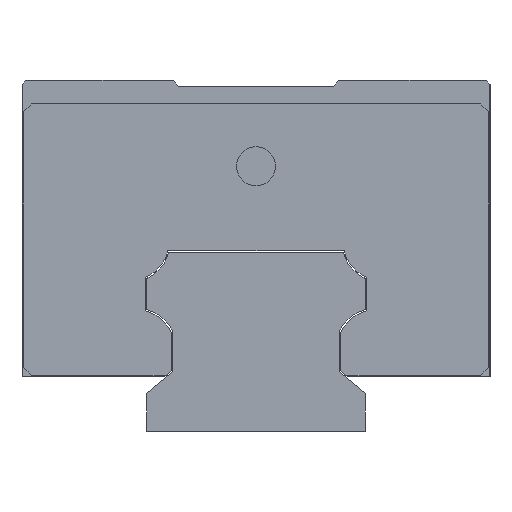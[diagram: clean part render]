
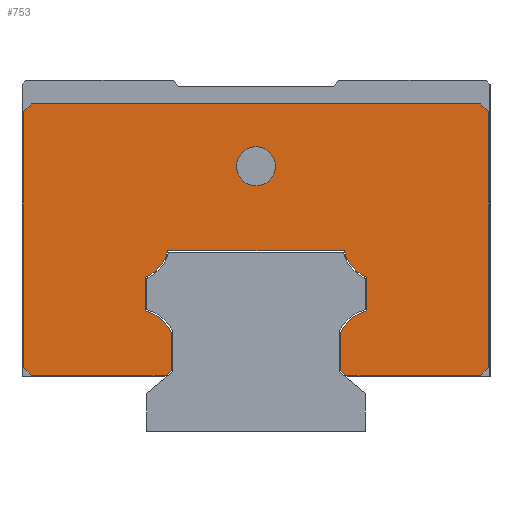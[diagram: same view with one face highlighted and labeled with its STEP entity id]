
A CAD part, left-side view. The second image highlights one B-rep face of the part: STEP entity #753.
In plain terms, the highlighted planar face has unit normal (-1, 0, 0).
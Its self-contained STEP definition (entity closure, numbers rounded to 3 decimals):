
#588=FACE_BOUND('',#1031,.T.);
#589=FACE_BOUND('',#1032,.T.);
#753=ADVANCED_FACE('',(#588,#589),#873,.F.);
#873=PLANE('',#2689);
#1031=EDGE_LOOP('',(#1374));
#1032=EDGE_LOOP('',(#1375,#1376,#1377,#1378,#1379,#1380,#1381,#1382,#1383,
#1384,#1385,#1386,#1387,#1388,#1389,#1390,#1391,#1392,#1393,#1394));
#1196=CIRCLE('',#2673,4.962);
#1197=CIRCLE('',#2676,4.962);
#1198=CIRCLE('',#2679,4.962);
#1199=CIRCLE('',#2682,4.962);
#1200=CIRCLE('',#2688,2.5);
#1374=ORIENTED_EDGE('',*,*,#2099,.F.);
#1375=ORIENTED_EDGE('',*,*,#2097,.F.);
#1376=ORIENTED_EDGE('',*,*,#2100,.T.);
#1377=ORIENTED_EDGE('',*,*,#2092,.F.);
#1378=ORIENTED_EDGE('',*,*,#2091,.F.);
#1379=ORIENTED_EDGE('',*,*,#2084,.F.);
#1380=ORIENTED_EDGE('',*,*,#2078,.F.);
#1381=ORIENTED_EDGE('',*,*,#2077,.F.);
#1382=ORIENTED_EDGE('',*,*,#2069,.F.);
#1383=ORIENTED_EDGE('',*,*,#2068,.F.);
#1384=ORIENTED_EDGE('',*,*,#2060,.F.);
#1385=ORIENTED_EDGE('',*,*,#2059,.F.);
#1386=ORIENTED_EDGE('',*,*,#2051,.F.);
#1387=ORIENTED_EDGE('',*,*,#2049,.F.);
#1388=ORIENTED_EDGE('',*,*,#2044,.F.);
#1389=ORIENTED_EDGE('',*,*,#2036,.F.);
#1390=ORIENTED_EDGE('',*,*,#2101,.T.);
#1391=ORIENTED_EDGE('',*,*,#2032,.F.);
#1392=ORIENTED_EDGE('',*,*,#2102,.T.);
#1393=ORIENTED_EDGE('',*,*,#2028,.F.);
#1394=ORIENTED_EDGE('',*,*,#2103,.T.);
#1832=VERTEX_POINT('',#3503);
#1833=VERTEX_POINT('',#3505);
#1836=VERTEX_POINT('',#3512);
#1837=VERTEX_POINT('',#3514);
#1840=VERTEX_POINT('',#3521);
#1841=VERTEX_POINT('',#3523);
#1842=VERTEX_POINT('',#3527);
#1848=VERTEX_POINT('',#3541);
#1853=VERTEX_POINT('',#3553);
#1854=VERTEX_POINT('',#3557);
#1859=VERTEX_POINT('',#3570);
#1860=VERTEX_POINT('',#3574);
#1865=VERTEX_POINT('',#3587);
#1866=VERTEX_POINT('',#3591);
#1871=VERTEX_POINT('',#3604);
#1872=VERTEX_POINT('',#3608);
#1876=VERTEX_POINT('',#3618);
#1882=VERTEX_POINT('',#3632);
#1886=VERTEX_POINT('',#3641);
#1887=VERTEX_POINT('',#3643);
#1888=VERTEX_POINT('',#3647);
#2028=EDGE_CURVE('',#1832,#1833,#2297,.T.);
#2032=EDGE_CURVE('',#1836,#1837,#2301,.T.);
#2036=EDGE_CURVE('',#1840,#1841,#2305,.T.);
#2044=EDGE_CURVE('',#1841,#1842,#2313,.T.);
#2049=EDGE_CURVE('',#1842,#1848,#2318,.T.);
#2051=EDGE_CURVE('',#1848,#1853,#1196,.T.);
#2059=EDGE_CURVE('',#1853,#1854,#2326,.T.);
#2060=EDGE_CURVE('',#1854,#1859,#1197,.T.);
#2068=EDGE_CURVE('',#1859,#1860,#2334,.T.);
#2069=EDGE_CURVE('',#1860,#1865,#1198,.T.);
#2077=EDGE_CURVE('',#1865,#1866,#2342,.T.);
#2078=EDGE_CURVE('',#1866,#1871,#1199,.T.);
#2084=EDGE_CURVE('',#1871,#1872,#2348,.T.);
#2091=EDGE_CURVE('',#1872,#1876,#2355,.T.);
#2092=EDGE_CURVE('',#1876,#1882,#2356,.T.);
#2097=EDGE_CURVE('',#1886,#1887,#2361,.T.);
#2099=EDGE_CURVE('',#1888,#1888,#1200,.T.);
#2100=EDGE_CURVE('',#1886,#1882,#2363,.T.);
#2101=EDGE_CURVE('',#1840,#1837,#2364,.T.);
#2102=EDGE_CURVE('',#1836,#1833,#2365,.T.);
#2103=EDGE_CURVE('',#1832,#1887,#2366,.T.);
#2297=LINE('',#3504,#2481);
#2301=LINE('',#3513,#2485);
#2305=LINE('',#3522,#2489);
#2313=LINE('',#3538,#2497);
#2318=LINE('',#3548,#2502);
#2326=LINE('',#3567,#2510);
#2334=LINE('',#3584,#2518);
#2342=LINE('',#3601,#2526);
#2348=LINE('',#3615,#2532);
#2355=LINE('',#3629,#2539);
#2356=LINE('',#3631,#2540);
#2361=LINE('',#3642,#2545);
#2363=LINE('',#3648,#2547);
#2364=LINE('',#3649,#2548);
#2365=LINE('',#3650,#2549);
#2366=LINE('',#3651,#2550);
#2481=VECTOR('',#2892,1.);
#2485=VECTOR('',#2898,1.);
#2489=VECTOR('',#2904,1.);
#2497=VECTOR('',#2914,1.);
#2502=VECTOR('',#2921,1.);
#2510=VECTOR('',#2937,1.);
#2518=VECTOR('',#2951,1.);
#2526=VECTOR('',#2965,1.);
#2532=VECTOR('',#2977,1.);
#2539=VECTOR('',#2986,1.);
#2540=VECTOR('',#2989,1.);
#2545=VECTOR('',#2996,1.);
#2547=VECTOR('',#3002,1.);
#2548=VECTOR('',#3003,1.);
#2549=VECTOR('',#3004,1.);
#2550=VECTOR('',#3005,1.);
#2673=AXIS2_PLACEMENT_3D('',#3552,#2926,#2927);
#2676=AXIS2_PLACEMENT_3D('',#3569,#2940,#2941);
#2679=AXIS2_PLACEMENT_3D('',#3586,#2954,#2955);
#2682=AXIS2_PLACEMENT_3D('',#3603,#2968,#2969);
#2688=AXIS2_PLACEMENT_3D('',#3646,#3000,#3001);
#2689=AXIS2_PLACEMENT_3D('',#3652,#3006,#3007);
#2892=DIRECTION('',(0.,-1.,0.));
#2898=DIRECTION('',(0.,0.,-1.));
#2904=DIRECTION('',(0.,1.,0.));
#2914=DIRECTION('',(0.,0.766,0.643));
#2921=DIRECTION('',(0.,0.,1.));
#2926=DIRECTION('',(1.,0.,0.));
#2927=DIRECTION('',(0.,1.,0.));
#2937=DIRECTION('',(0.,0.,1.));
#2940=DIRECTION('',(1.,0.,0.));
#2941=DIRECTION('',(0.,1.,0.));
#2951=DIRECTION('',(0.,1.,0.));
#2954=DIRECTION('',(1.,0.,0.));
#2955=DIRECTION('',(0.,-1.,0.));
#2965=DIRECTION('',(0.,0.,-1.));
#2968=DIRECTION('',(1.,0.,0.));
#2969=DIRECTION('',(0.,-1.,0.));
#2977=DIRECTION('',(0.,0.,-1.));
#2986=DIRECTION('',(0.,0.766,-0.643));
#2989=DIRECTION('',(0.,1.,0.));
#2996=DIRECTION('',(0.,0.,1.));
#3000=DIRECTION('',(-1.,0.,0.));
#3001=DIRECTION('',(0.,1.,0.));
#3002=DIRECTION('',(0.,-0.707,-0.707));
#3003=DIRECTION('',(0.,-0.707,0.707));
#3004=DIRECTION('',(0.,0.707,0.707));
#3005=DIRECTION('',(0.,0.707,-0.707));
#3006=DIRECTION('',(1.,0.,0.));
#3007=DIRECTION('',(0.,0.,-1.));
#3503=CARTESIAN_POINT('',(-66.,28.8,42.));
#3504=CARTESIAN_POINT('',(-66.,29.8,42.));
#3505=CARTESIAN_POINT('',(-66.,-28.8,42.));
#3512=CARTESIAN_POINT('',(-66.,-29.8,41.));
#3513=CARTESIAN_POINT('',(-66.,-29.8,42.));
#3514=CARTESIAN_POINT('',(-66.,-29.8,8.2));
#3521=CARTESIAN_POINT('',(-66.,-28.8,7.2));
#3522=CARTESIAN_POINT('',(-66.,-29.8,7.2));
#3523=CARTESIAN_POINT('',(-66.,-11.53,7.2));
#3527=CARTESIAN_POINT('',(-66.,-10.863,7.76));
#3538=CARTESIAN_POINT('',(-66.,-11.53,7.2));
#3541=CARTESIAN_POINT('',(-66.,-10.863,12.685));
#3548=CARTESIAN_POINT('',(-66.,-10.863,7.76));
#3552=CARTESIAN_POINT('',(-66.,-15.397,10.669));
#3553=CARTESIAN_POINT('',(-66.,-14.2,15.485));
#3557=CARTESIAN_POINT('',(-66.,-14.2,19.736));
#3567=CARTESIAN_POINT('',(-66.,-14.2,15.485));
#3569=CARTESIAN_POINT('',(-66.,-16.13,24.307));
#3570=CARTESIAN_POINT('',(-66.,-11.293,23.2));
#3574=CARTESIAN_POINT('',(-66.,11.293,23.2));
#3584=CARTESIAN_POINT('',(-66.,-11.293,23.2));
#3586=CARTESIAN_POINT('',(-66.,16.13,24.307));
#3587=CARTESIAN_POINT('',(-66.,14.2,19.736));
#3591=CARTESIAN_POINT('',(-66.,14.2,15.485));
#3601=CARTESIAN_POINT('',(-66.,14.2,19.736));
#3603=CARTESIAN_POINT('',(-66.,15.397,10.669));
#3604=CARTESIAN_POINT('',(-66.,10.863,12.685));
#3608=CARTESIAN_POINT('',(-66.,10.863,7.76));
#3615=CARTESIAN_POINT('',(-66.,10.863,12.685));
#3618=CARTESIAN_POINT('',(-66.,11.53,7.2));
#3629=CARTESIAN_POINT('',(-66.,10.863,7.76));
#3631=CARTESIAN_POINT('',(-66.,11.53,7.2));
#3632=CARTESIAN_POINT('',(-66.,28.8,7.2));
#3641=CARTESIAN_POINT('',(-66.,29.8,8.2));
#3642=CARTESIAN_POINT('',(-66.,29.8,7.2));
#3643=CARTESIAN_POINT('',(-66.,29.8,41.));
#3646=CARTESIAN_POINT('',(-66.,0.,34.));
#3647=CARTESIAN_POINT('',(-66.,2.5,34.));
#3648=CARTESIAN_POINT('',(-66.,28.8,7.2));
#3649=CARTESIAN_POINT('',(-66.,-29.8,8.2));
#3650=CARTESIAN_POINT('',(-66.,-28.8,42.));
#3651=CARTESIAN_POINT('',(-66.,29.8,41.));
#3652=CARTESIAN_POINT('',(-66.,-15.397,10.669));
